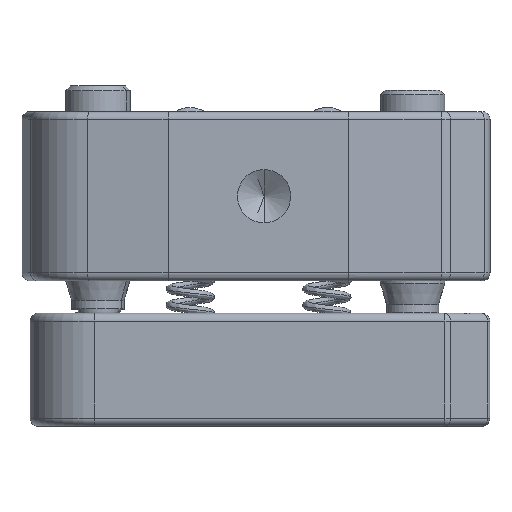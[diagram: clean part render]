
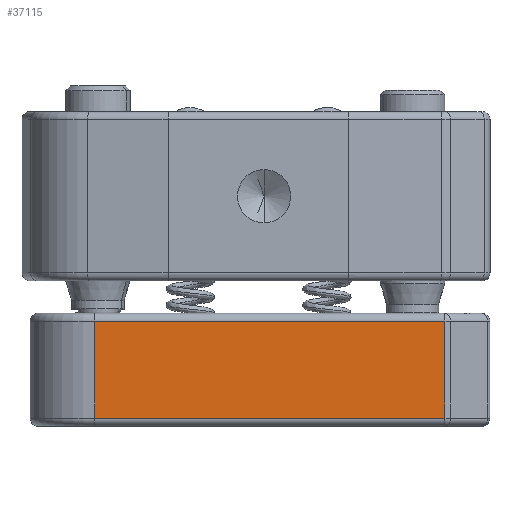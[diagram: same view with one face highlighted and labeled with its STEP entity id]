
A CAD part, front view. The second image highlights one B-rep face of the part: STEP entity #37115.
In plain terms, the highlighted planar face has unit normal (0, -1, 0).
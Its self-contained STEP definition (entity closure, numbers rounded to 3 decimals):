
#777 = CARTESIAN_POINT ( 'NONE',  ( 0.905, -18.716, -14.25 ) ) ;
#1172 = VECTOR ( 'NONE', #16236, 1000. ) ;
#2956 = CARTESIAN_POINT ( 'NONE',  ( 0.905, -18.716, -13.75 ) ) ;
#3799 = CARTESIAN_POINT ( 'NONE',  ( -20.795, -18.716, -13.75 ) ) ;
#3853 = CARTESIAN_POINT ( 'NONE',  ( -20.795, -18.716, -14.25 ) ) ;
#4194 = EDGE_LOOP ( 'NONE', ( #17835, #27400, #32361, #5940 ) ) ;
#4997 = CARTESIAN_POINT ( 'NONE',  ( -10.295, -18.716, -7.75 ) ) ;
#5279 = CARTESIAN_POINT ( 'NONE',  ( 0.905, -18.716, -13.75 ) ) ;
#5940 = ORIENTED_EDGE ( 'NONE', *, *, #6221, .T. ) ;
#6221 = EDGE_CURVE ( 'NONE', #26521, #20144, #30776, .T. ) ;
#7745 = CARTESIAN_POINT ( 'NONE',  ( -20.795, -18.716, -7.75 ) ) ;
#10532 = VERTEX_POINT ( 'NONE', #7745 ) ;
#10996 = CARTESIAN_POINT ( 'NONE',  ( -10.295, -18.716, -14.25 ) ) ;
#13179 = DIRECTION ( 'NONE',  ( 0., 0., 1. ) ) ;
#14217 = VERTEX_POINT ( 'NONE', #40147 ) ;
#14837 = EDGE_CURVE ( 'NONE', #20144, #14217, #28617, .T. ) ;
#15353 = DIRECTION ( 'NONE',  ( 1., 0., 0. ) ) ;
#16236 = DIRECTION ( 'NONE',  ( 0., 0., 1. ) ) ;
#17375 = DIRECTION ( 'NONE',  ( -1., 0., 0. ) ) ;
#17806 = EDGE_CURVE ( 'NONE', #26521, #10532, #31667, .T. ) ;
#17835 = ORIENTED_EDGE ( 'NONE', *, *, #14837, .T. ) ;
#20144 = VERTEX_POINT ( 'NONE', #5279 ) ;
#23378 = DIRECTION ( 'NONE',  ( 0., -1., 0. ) ) ;
#25740 = VECTOR ( 'NONE', #17375, 1000. ) ;
#26421 = FACE_OUTER_BOUND ( 'NONE', #4194, .T. ) ;
#26521 = VERTEX_POINT ( 'NONE', #3799 ) ;
#27400 = ORIENTED_EDGE ( 'NONE', *, *, #35447, .T. ) ;
#28617 = LINE ( 'NONE', #777, #33326 ) ;
#30776 = LINE ( 'NONE', #2956, #35156 ) ;
#31667 = LINE ( 'NONE', #3853, #1172 ) ;
#32361 = ORIENTED_EDGE ( 'NONE', *, *, #17806, .F. ) ;
#32796 = LINE ( 'NONE', #4997, #25740 ) ;
#33326 = VECTOR ( 'NONE', #13179, 1000. ) ;
#34761 = AXIS2_PLACEMENT_3D ( 'NONE', #10996, #23378, #35748 ) ;
#35156 = VECTOR ( 'NONE', #15353, 1000. ) ;
#35447 = EDGE_CURVE ( 'NONE', #14217, #10532, #32796, .T. ) ;
#35748 = DIRECTION ( 'NONE',  ( 0., 0., -1. ) ) ;
#37115 = ADVANCED_FACE ( 'NONE', ( #26421 ), #38795, .T. ) ;
#38795 = PLANE ( 'NONE',  #34761 ) ;
#40147 = CARTESIAN_POINT ( 'NONE',  ( 0.905, -18.716, -7.75 ) ) ;
